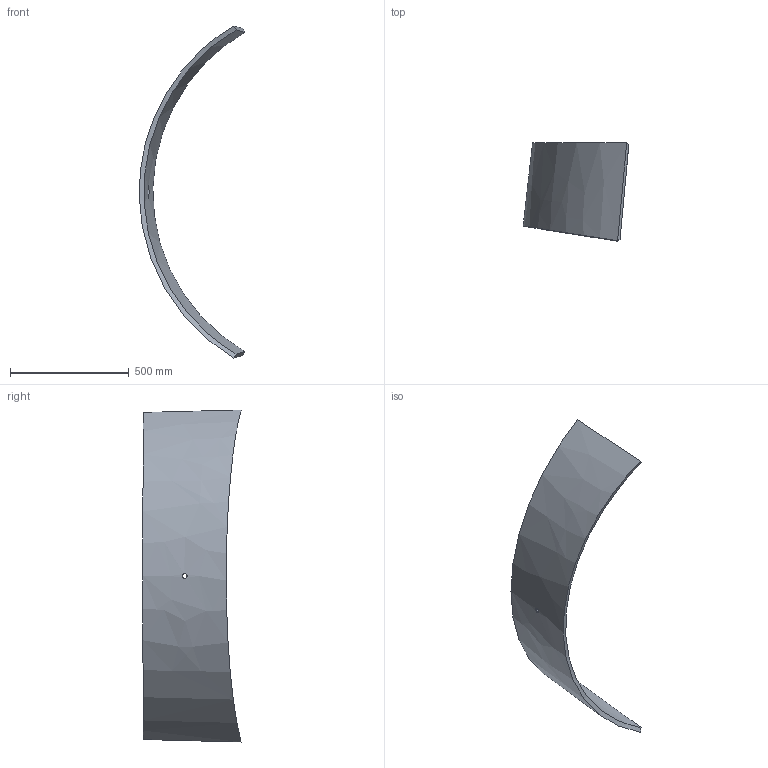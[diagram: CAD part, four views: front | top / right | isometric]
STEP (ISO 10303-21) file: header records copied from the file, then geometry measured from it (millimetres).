
FILE_DESCRIPTION (( 'STEP AP214' ), '1' );
FILE_NAME ('P4.1.STEP', '2025-01-09T19:43:27', ( '' ), ( '' ), 'SwSTEP 2.0', 'SolidWorks 2024', '' );
FILE_SCHEMA (( 'AUTOMOTIVE_DESIGN' ));
Length unit declared in the file: inch
Products named in the file (1): P4.1
Bounding box: 444.23 x 412.63 x 1396.56 mm (x, y, z)
Volume: 11904128.3 mm3; surface area: 1290867 mm2
Topology: 1 solids, 1 shells, 8 faces, 17 edges, 11 vertices
Faces by surface type: bspline 7, cylinder 1
Full cylindrical faces by diameter (mm): 19.431 x1
Entity records: 2773 total; most frequent: CARTESIAN_POINT 2625, ORIENTED_EDGE 30, EDGE_CURVE 15, B_SPLINE_CURVE_WITH_KNOTS 15, EDGE_LOOP 12, VERTEX_POINT 11, FACE_OUTER_BOUND 10, ADVANCED_FACE 8
